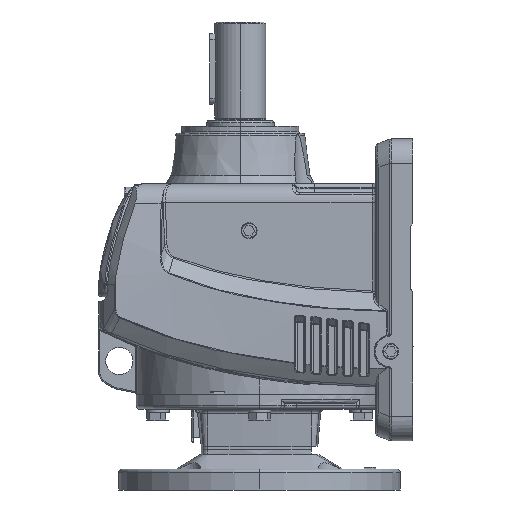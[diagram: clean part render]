
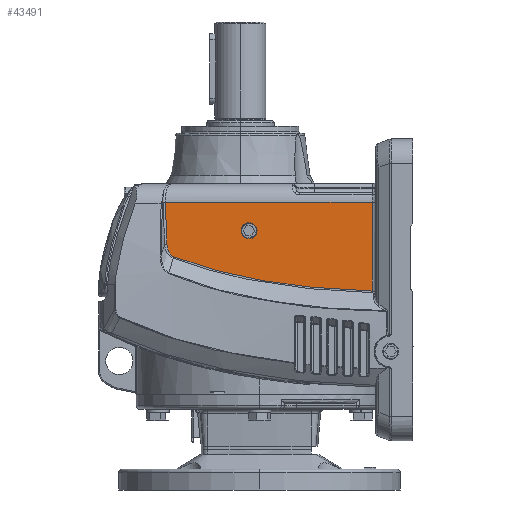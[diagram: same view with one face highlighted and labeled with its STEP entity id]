
A CAD part, left-side view. The second image highlights one B-rep face of the part: STEP entity #43491.
In plain terms, the highlighted planar face has unit normal (-1, 0, 0).
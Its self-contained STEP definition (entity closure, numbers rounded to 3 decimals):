
#6959 = VERTEX_POINT ( 'NONE', #54614 ) ;
#6962 = VERTEX_POINT ( 'NONE', #54611 ) ;
#9058 = CARTESIAN_POINT ( 'NONE',  ( -100., 37., -10.5 ) ) ;
#9135 = CARTESIAN_POINT ( 'NONE',  ( -100., 37., -82.481 ) ) ;
#9136 = CARTESIAN_POINT ( 'NONE',  ( -100., 87.405, -79.257 ) ) ;
#9137 = CARTESIAN_POINT ( 'NONE',  ( -100., 198.045, -54.652 ) ) ;
#9138 = CARTESIAN_POINT ( 'NONE',  ( -100., 203.682, -44.307 ) ) ;
#9139 = CARTESIAN_POINT ( 'NONE',  ( -100., 204.975, -10.5 ) ) ;
#10104 = EDGE_CURVE ( 'NONE', #6959, #6962, #31487, .T. ) ;
#10614 = CARTESIAN_POINT ( 'NONE',  ( -100., 203.682, -44.307 ) ) ;
#10615 = CARTESIAN_POINT ( 'NONE',  ( -100., 204.04, -33.035 ) ) ;
#10618 = CARTESIAN_POINT ( 'NONE',  ( -100., 204.477, -21.766 ) ) ;
#10619 = CARTESIAN_POINT ( 'NONE',  ( -100., 204.975, -10.5 ) ) ;
#10648 = CARTESIAN_POINT ( 'NONE',  ( -100., 198.045, -54.652 ) ) ;
#10650 = CARTESIAN_POINT ( 'NONE',  ( -100., 198.535, -54.461 ) ) ;
#10651 = CARTESIAN_POINT ( 'NONE',  ( -100., 198.995, -54.215 ) ) ;
#10653 = CARTESIAN_POINT ( 'NONE',  ( -100., 199.86, -53.62 ) ) ;
#10656 = CARTESIAN_POINT ( 'NONE',  ( -100., 200.252, -53.281 ) ) ;
#10658 = CARTESIAN_POINT ( 'NONE',  ( -100., 200.789, -52.719 ) ) ;
#10660 = CARTESIAN_POINT ( 'NONE',  ( -100., 200.959, -52.523 ) ) ;
#10661 = CARTESIAN_POINT ( 'NONE',  ( -100., 201.284, -52.115 ) ) ;
#10664 = CARTESIAN_POINT ( 'NONE',  ( -100., 201.438, -51.903 ) ) ;
#10665 = CARTESIAN_POINT ( 'NONE',  ( -100., 201.871, -51.253 ) ) ;
#10667 = CARTESIAN_POINT ( 'NONE',  ( -100., 202.123, -50.801 ) ) ;
#10669 = CARTESIAN_POINT ( 'NONE',  ( -100., 202.565, -49.863 ) ) ;
#10672 = CARTESIAN_POINT ( 'NONE',  ( -100., 202.756, -49.376 ) ) ;
#10674 = CARTESIAN_POINT ( 'NONE',  ( -100., 203.079, -48.387 ) ) ;
#10675 = CARTESIAN_POINT ( 'NONE',  ( -100., 203.212, -47.887 ) ) ;
#10677 = CARTESIAN_POINT ( 'NONE',  ( -100., 203.533, -46.375 ) ) ;
#10680 = CARTESIAN_POINT ( 'NONE',  ( -100., 203.649, -45.348 ) ) ;
#10682 = CARTESIAN_POINT ( 'NONE',  ( -100., 203.682, -44.307 ) ) ;
#10701 = CARTESIAN_POINT ( 'NONE',  ( -100., 87.405, -79.257 ) ) ;
#10703 = CARTESIAN_POINT ( 'NONE',  ( -100., 96.835, -78.274 ) ) ;
#10706 = CARTESIAN_POINT ( 'NONE',  ( -100., 106.229, -77.07 ) ) ;
#10708 = CARTESIAN_POINT ( 'NONE',  ( -100., 120.258, -74.902 ) ) ;
#10710 = CARTESIAN_POINT ( 'NONE',  ( -100., 124.924, -74.118 ) ) ;
#10711 = CARTESIAN_POINT ( 'NONE',  ( -100., 134.235, -72.42 ) ) ;
#10713 = CARTESIAN_POINT ( 'NONE',  ( -100., 138.88, -71.506 ) ) ;
#10715 = CARTESIAN_POINT ( 'NONE',  ( -100., 148.144, -69.531 ) ) ;
#10716 = CARTESIAN_POINT ( 'NONE',  ( -100., 152.767, -68.471 ) ) ;
#10720 = CARTESIAN_POINT ( 'NONE',  ( -100., 161.971, -66.19 ) ) ;
#10721 = CARTESIAN_POINT ( 'NONE',  ( -100., 166.549, -64.972 ) ) ;
#10723 = CARTESIAN_POINT ( 'NONE',  ( -100., 175.651, -62.358 ) ) ;
#10725 = CARTESIAN_POINT ( 'NONE',  ( -100., 180.175, -60.964 ) ) ;
#10726 = CARTESIAN_POINT ( 'NONE',  ( -100., 189.16, -57.971 ) ) ;
#10730 = CARTESIAN_POINT ( 'NONE',  ( -100., 193.622, -56.374 ) ) ;
#10731 = CARTESIAN_POINT ( 'NONE',  ( -100., 198.045, -54.652 ) ) ;
#10765 = CARTESIAN_POINT ( 'NONE',  ( -100., 37., -82.481 ) ) ;
#10767 = CARTESIAN_POINT ( 'NONE',  ( -100., 39.106, -82.435 ) ) ;
#10769 = CARTESIAN_POINT ( 'NONE',  ( -100., 41.211, -82.377 ) ) ;
#10770 = CARTESIAN_POINT ( 'NONE',  ( -100., 45.419, -82.234 ) ) ;
#10772 = CARTESIAN_POINT ( 'NONE',  ( -100., 47.523, -82.148 ) ) ;
#10774 = CARTESIAN_POINT ( 'NONE',  ( -100., 53.831, -81.862 ) ) ;
#10775 = CARTESIAN_POINT ( 'NONE',  ( -100., 58.034, -81.633 ) ) ;
#10777 = CARTESIAN_POINT ( 'NONE',  ( -100., 70.635, -80.826 ) ) ;
#10779 = CARTESIAN_POINT ( 'NONE',  ( -100., 79.026, -80.13 ) ) ;
#10780 = CARTESIAN_POINT ( 'NONE',  ( -100., 87.405, -79.257 ) ) ;
#14899 = ORIENTED_EDGE ( 'NONE', *, *, #42894, .T. ) ;
#14900 = ORIENTED_EDGE ( 'NONE', *, *, #43026, .F. ) ;
#14902 = ORIENTED_EDGE ( 'NONE', *, *, #10104, .F. ) ;
#14904 = ORIENTED_EDGE ( 'NONE', *, *, #43013, .T. ) ;
#14927 = ORIENTED_EDGE ( 'NONE', *, *, #42913, .T. ) ;
#14929 = ORIENTED_EDGE ( 'NONE', *, *, #42903, .T. ) ;
#14930 = ORIENTED_EDGE ( 'NONE', *, *, #42881, .T. ) ;
#14933 = ORIENTED_EDGE ( 'NONE', *, *, #43054, .T. ) ;
#16911 = B_SPLINE_CURVE_WITH_KNOTS ( 'NONE', 3,
 ( #10780, #10779, #10777, #10775, #10774, #10772, #10770, #10769, #10767, #10765 ),
 .UNSPECIFIED., .F., .F.,
 ( 4, 2, 2, 2, 4 ),
 ( 0., 0.025, 0.038, 0.044, 0.051 ),
 .UNSPECIFIED. ) ;
#16912 = B_SPLINE_CURVE_WITH_KNOTS ( 'NONE', 3,
 ( #10731, #10730, #10726, #10725, #10723, #10721, #10720, #10716, #10715, #10713, #10711, #10710, #10708, #10706, #10703, #10701 ),
 .UNSPECIFIED., .F., .F.,
 ( 4, 2, 2, 2, 2, 2, 2, 4 ),
 ( 0., 0.014, 0.028, 0.043, 0.057, 0.071, 0.085, 0.114 ),
 .UNSPECIFIED. ) ;
#16913 = B_SPLINE_CURVE_WITH_KNOTS ( 'NONE', 3,
 ( #10682, #10680, #10677, #10675, #10674, #10672, #10669, #10667, #10665, #10664, #10661, #10660, #10658, #10656, #10653, #10651, #10650, #10648 ),
 .UNSPECIFIED., .F., .F.,
 ( 4, 2, 2, 2, 2, 2, 2, 2, 4 ),
 ( 0., 0.003, 0.005, 0.006, 0.008, 0.009, 0.009, 0.011, 0.012 ),
 .UNSPECIFIED. ) ;
#16914 = B_SPLINE_CURVE_WITH_KNOTS ( 'NONE', 3,
 ( #10619, #10618, #10615, #10614 ),
 .UNSPECIFIED., .F., .F.,
 ( 4, 4 ),
 ( 0., 0.034 ),
 .UNSPECIFIED. ) ;
#18572 = PLANE ( 'NONE',  #25116 ) ;
#18573 = CARTESIAN_POINT ( 'NONE',  ( -100., 4.772, -95.607 ) ) ;
#18574 = DIRECTION ( 'NONE',  ( -1., 0., 0. ) ) ;
#18575 = DIRECTION ( 'NONE',  ( 0., 0., 1. ) ) ;
#25116 = AXIS2_PLACEMENT_3D ( 'NONE', #18573, #18574, #18575 ) ;
#25508 = CIRCLE ( 'NONE', #25512, 6.244 ) ;
#25509 = VECTOR ( 'NONE', #48674, 1000. ) ;
#25512 = AXIS2_PLACEMENT_3D ( 'NONE', #48682, #48264, #48276 ) ;
#25521 = VECTOR ( 'NONE', #48548, 1000. ) ;
#27974 = DIRECTION ( 'NONE',  ( 0., 0., 1. ) ) ;
#27975 = DIRECTION ( 'NONE',  ( -1., 0., 0. ) ) ;
#27977 = CARTESIAN_POINT ( 'NONE',  ( -100., 137., -33.5 ) ) ;
#31484 = AXIS2_PLACEMENT_3D ( 'NONE', #27977, #27975, #27974 ) ;
#31487 = CIRCLE ( 'NONE', #31484, 6.244 ) ;
#34274 = EDGE_LOOP ( 'NONE', ( #14900, #14902 ) ) ;
#34275 = EDGE_LOOP ( 'NONE', ( #14904, #14927, #14929, #14899, #14930, #14933 ) ) ;
#40640 = LINE ( 'NONE', #48496, #25521 ) ;
#40653 = LINE ( 'NONE', #48614, #25509 ) ;
#42881 = EDGE_CURVE ( 'NONE', #52835, #52834, #16911, .T. ) ;
#42894 = EDGE_CURVE ( 'NONE', #52836, #52835, #16912, .T. ) ;
#42903 = EDGE_CURVE ( 'NONE', #52837, #52836, #16913, .T. ) ;
#42913 = EDGE_CURVE ( 'NONE', #52838, #52837, #16914, .T. ) ;
#43013 = EDGE_CURVE ( 'NONE', #52757, #52838, #40653, .T. ) ;
#43026 = EDGE_CURVE ( 'NONE', #6962, #6959, #25508, .T. ) ;
#43054 = EDGE_CURVE ( 'NONE', #52834, #52757, #40640, .T. ) ;
#43491 = ADVANCED_FACE ( 'NONE', ( #55871, #55867 ), #18572, .T. ) ;
#48264 = DIRECTION ( 'NONE',  ( -1., 0., 0. ) ) ;
#48276 = DIRECTION ( 'NONE',  ( 0., 0., 1. ) ) ;
#48496 = CARTESIAN_POINT ( 'NONE',  ( -100., 37., -95.607 ) ) ;
#48548 = DIRECTION ( 'NONE',  ( 0., 0., 1. ) ) ;
#48614 = CARTESIAN_POINT ( 'NONE',  ( -100., 4.772, -10.5 ) ) ;
#48674 = DIRECTION ( 'NONE',  ( 0., 1., 0. ) ) ;
#48682 = CARTESIAN_POINT ( 'NONE',  ( -100., 137., -33.5 ) ) ;
#52757 = VERTEX_POINT ( 'NONE', #9058 ) ;
#52834 = VERTEX_POINT ( 'NONE', #9135 ) ;
#52835 = VERTEX_POINT ( 'NONE', #9136 ) ;
#52836 = VERTEX_POINT ( 'NONE', #9137 ) ;
#52837 = VERTEX_POINT ( 'NONE', #9138 ) ;
#52838 = VERTEX_POINT ( 'NONE', #9139 ) ;
#54611 = CARTESIAN_POINT ( 'NONE',  ( -100., 137., -27.256 ) ) ;
#54614 = CARTESIAN_POINT ( 'NONE',  ( -100., 137., -39.744 ) ) ;
#55867 = FACE_OUTER_BOUND ( 'NONE', #34275, .T. ) ;
#55871 = FACE_BOUND ( 'NONE', #34274, .T. ) ;
